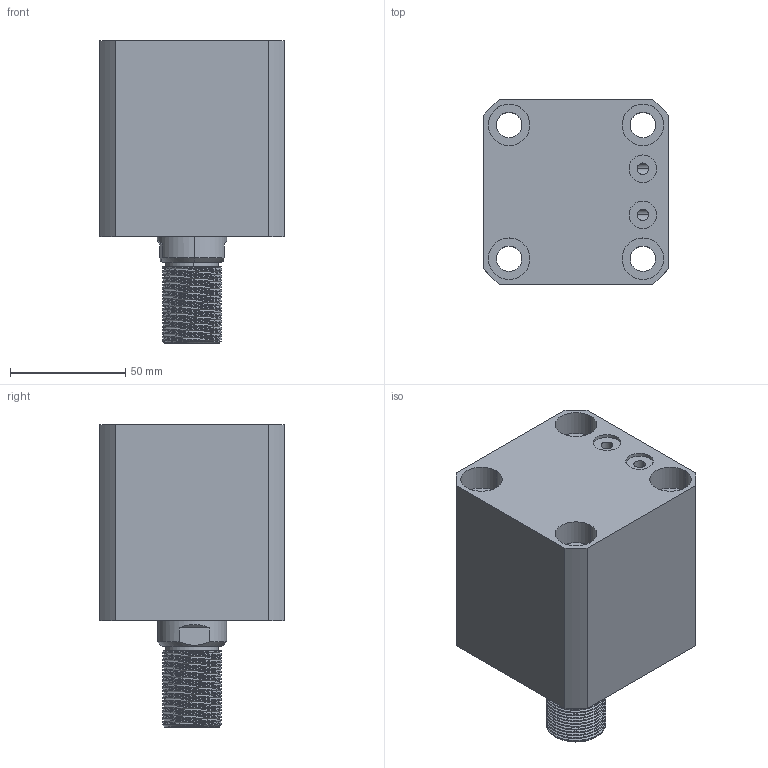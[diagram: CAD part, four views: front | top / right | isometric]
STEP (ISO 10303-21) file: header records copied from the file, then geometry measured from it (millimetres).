
FILE_DESCRIPTION (( 'STEP AP203' ), '1' );
FILE_NAME ('CHTB-SDMB50-25W.STEP', '2018-05-19T03:50:01', ( '' ), ( '' ), 'SwSTEP 2.0', 'SolidWorks 2015', '' );
FILE_SCHEMA (( 'CONFIG_CONTROL_DESIGN' ));
Length unit declared in the file: millimetre
Products named in the file (5): CHTM-SDMA50QG; 活塞杆SDMB50-25W; 掛极SDMB50-25W; M6; CHTB-SDMB50-25W
Assembly tree (5 placements, depth 2):
  CHTB-SDMB50-25W
    掛极SDMB50-25W
    活塞杆SDMB50-25W
    CHTM-SDMA50QG
    M6  x2
Bounding box: 80 x 80 x 131 mm (x, y, z)
Volume: 477506.5 mm3; surface area: 100245.7 mm2
Topology: 5 solids, 5 shells, 305 faces, 821 edges, 547 vertices
Faces by surface type: cylinder 175, plane 57, cone 29, bspline 28, torus 16
Entity records: 17763 total; most frequent: CARTESIAN_POINT 11022, ORIENTED_EDGE 1448, DIRECTION 1131, EDGE_CURVE 724, VERTEX_POINT 486, AXIS2_PLACEMENT_3D 455, EDGE_LOOP 312, FACE_OUTER_BOUND 270
